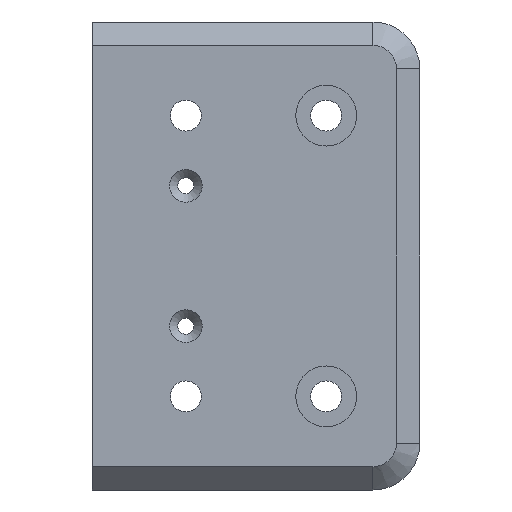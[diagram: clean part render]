
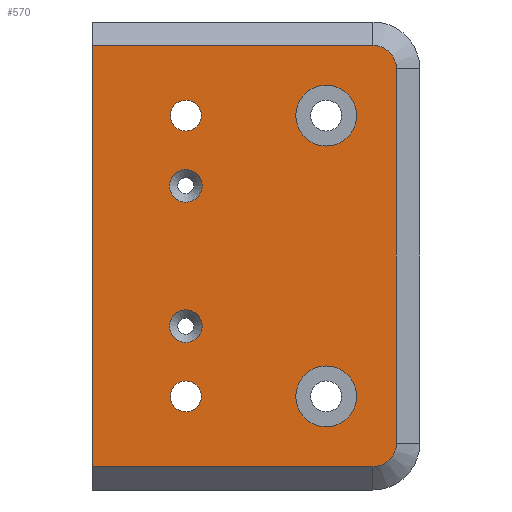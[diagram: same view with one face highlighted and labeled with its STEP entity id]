
A CAD part, front view. The second image highlights one B-rep face of the part: STEP entity #570.
In plain terms, the highlighted planar face has unit normal (0, -1, 0).
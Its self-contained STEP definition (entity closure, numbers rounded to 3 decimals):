
#94=FACE_BOUND('',#179,.T.);
#95=FACE_BOUND('',#180,.T.);
#96=FACE_BOUND('',#181,.T.);
#97=FACE_BOUND('',#182,.T.);
#98=FACE_BOUND('',#183,.T.);
#99=FACE_BOUND('',#184,.T.);
#110=CIRCLE('',#621,5.);
#112=CIRCLE('',#625,5.);
#113=CIRCLE('',#628,3.3);
#114=CIRCLE('',#629,3.3);
#115=CIRCLE('',#630,6.5);
#116=CIRCLE('',#631,6.5);
#117=CIRCLE('',#632,3.5);
#118=CIRCLE('',#633,3.5);
#148=FACE_OUTER_BOUND('',#178,.T.);
#178=EDGE_LOOP('',(#433,#434,#435,#436,#437,#438));
#179=EDGE_LOOP('',(#439));
#180=EDGE_LOOP('',(#440));
#181=EDGE_LOOP('',(#441));
#182=EDGE_LOOP('',(#442));
#183=EDGE_LOOP('',(#443));
#184=EDGE_LOOP('',(#444));
#221=LINE('',#862,#262);
#224=LINE('',#873,#265);
#228=LINE('',#885,#269);
#230=LINE('',#888,#271);
#262=VECTOR('',#689,10.);
#265=VECTOR('',#700,10.);
#269=VECTOR('',#712,10.);
#271=VECTOR('',#716,10.);
#300=VERTEX_POINT('',#855);
#303=VERTEX_POINT('',#860);
#305=VERTEX_POINT('',#866);
#307=VERTEX_POINT('',#871);
#309=VERTEX_POINT('',#878);
#311=VERTEX_POINT('',#883);
#312=VERTEX_POINT('',#889);
#313=VERTEX_POINT('',#891);
#314=VERTEX_POINT('',#893);
#315=VERTEX_POINT('',#895);
#316=VERTEX_POINT('',#897);
#317=VERTEX_POINT('',#899);
#347=EDGE_CURVE('',#303,#300,#221,.T.);
#350=EDGE_CURVE('',#305,#303,#110,.T.);
#352=EDGE_CURVE('',#307,#305,#224,.T.);
#356=EDGE_CURVE('',#309,#307,#112,.T.);
#358=EDGE_CURVE('',#311,#309,#228,.T.);
#360=EDGE_CURVE('',#300,#311,#230,.T.);
#361=EDGE_CURVE('',#312,#312,#113,.T.);
#362=EDGE_CURVE('',#313,#313,#114,.T.);
#363=EDGE_CURVE('',#314,#314,#115,.T.);
#364=EDGE_CURVE('',#315,#315,#116,.T.);
#365=EDGE_CURVE('',#316,#316,#117,.T.);
#366=EDGE_CURVE('',#317,#317,#118,.T.);
#433=ORIENTED_EDGE('',*,*,#347,.F.);
#434=ORIENTED_EDGE('',*,*,#350,.F.);
#435=ORIENTED_EDGE('',*,*,#352,.F.);
#436=ORIENTED_EDGE('',*,*,#356,.F.);
#437=ORIENTED_EDGE('',*,*,#358,.F.);
#438=ORIENTED_EDGE('',*,*,#360,.F.);
#439=ORIENTED_EDGE('',*,*,#361,.T.);
#440=ORIENTED_EDGE('',*,*,#362,.T.);
#441=ORIENTED_EDGE('',*,*,#363,.T.);
#442=ORIENTED_EDGE('',*,*,#364,.T.);
#443=ORIENTED_EDGE('',*,*,#365,.T.);
#444=ORIENTED_EDGE('',*,*,#366,.T.);
#554=PLANE('',#627);
#570=ADVANCED_FACE('',(#148,#94,#95,#96,#97,#98,#99),#554,.T.);
#621=AXIS2_PLACEMENT_3D('',#868,#695,#696);
#625=AXIS2_PLACEMENT_3D('',#880,#707,#708);
#627=AXIS2_PLACEMENT_3D('',#887,#714,#715);
#628=AXIS2_PLACEMENT_3D('',#890,#717,#718);
#629=AXIS2_PLACEMENT_3D('',#892,#719,#720);
#630=AXIS2_PLACEMENT_3D('',#894,#721,#722);
#631=AXIS2_PLACEMENT_3D('',#896,#723,#724);
#632=AXIS2_PLACEMENT_3D('',#898,#725,#726);
#633=AXIS2_PLACEMENT_3D('',#900,#727,#728);
#689=DIRECTION('',(-1.,0.,0.));
#695=DIRECTION('center_axis',(0.,1.,0.));
#696=DIRECTION('ref_axis',(0.707,0.,-0.707));
#700=DIRECTION('',(0.,0.,-1.));
#707=DIRECTION('center_axis',(0.,1.,0.));
#708=DIRECTION('ref_axis',(0.707,0.,0.707));
#712=DIRECTION('',(1.,0.,0.));
#714=DIRECTION('center_axis',(0.,-1.,0.));
#715=DIRECTION('ref_axis',(0.,0.,-1.));
#716=DIRECTION('',(0.,0.,1.));
#717=DIRECTION('center_axis',(0.,1.,0.));
#718=DIRECTION('ref_axis',(-1.,0.,0.));
#719=DIRECTION('center_axis',(0.,1.,0.));
#720=DIRECTION('ref_axis',(-1.,0.,0.));
#721=DIRECTION('center_axis',(0.,1.,0.));
#722=DIRECTION('ref_axis',(1.,0.,0.));
#723=DIRECTION('center_axis',(0.,1.,0.));
#724=DIRECTION('ref_axis',(1.,0.,0.));
#725=DIRECTION('center_axis',(0.,1.,0.));
#726=DIRECTION('ref_axis',(1.,0.,0.));
#727=DIRECTION('center_axis',(0.,1.,0.));
#728=DIRECTION('ref_axis',(1.,0.,0.));
#855=CARTESIAN_POINT('',(0.,0.,-45.));
#860=CARTESIAN_POINT('',(60.,0.,-45.));
#862=CARTESIAN_POINT('',(60.,0.,-45.));
#866=CARTESIAN_POINT('',(65.,0.,-40.));
#868=CARTESIAN_POINT('Origin',(60.,0.,-40.));
#871=CARTESIAN_POINT('',(65.,0.,40.));
#873=CARTESIAN_POINT('',(65.,0.,0.));
#878=CARTESIAN_POINT('',(60.,0.,45.));
#880=CARTESIAN_POINT('Origin',(60.,0.,40.));
#883=CARTESIAN_POINT('',(0.,0.,45.));
#885=CARTESIAN_POINT('',(60.,0.,45.));
#887=CARTESIAN_POINT('Origin',(70.,0.,0.));
#888=CARTESIAN_POINT('',(0.,0.,0.));
#889=CARTESIAN_POINT('',(23.3,0.,30.));
#890=CARTESIAN_POINT('Origin',(20.,0.,30.));
#891=CARTESIAN_POINT('',(23.3,0.,-30.));
#892=CARTESIAN_POINT('Origin',(20.,0.,-30.));
#893=CARTESIAN_POINT('',(43.5,0.,-30.));
#894=CARTESIAN_POINT('Origin',(50.,0.,-30.));
#895=CARTESIAN_POINT('',(43.5,0.,30.));
#896=CARTESIAN_POINT('Origin',(50.,0.,30.));
#897=CARTESIAN_POINT('',(16.5,0.,15.));
#898=CARTESIAN_POINT('Origin',(20.,0.,15.));
#899=CARTESIAN_POINT('',(16.5,0.,-15.));
#900=CARTESIAN_POINT('Origin',(20.,0.,-15.));
